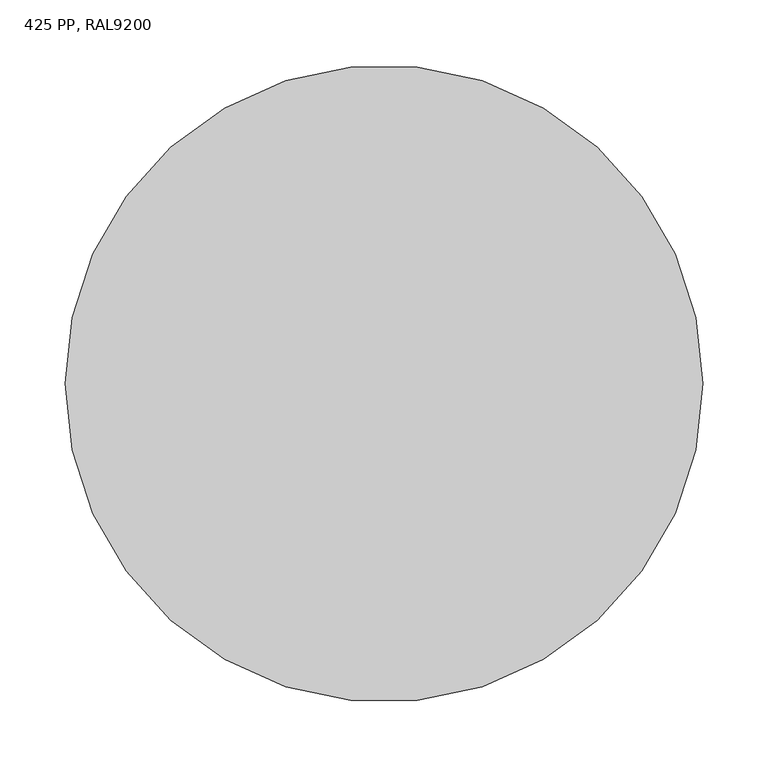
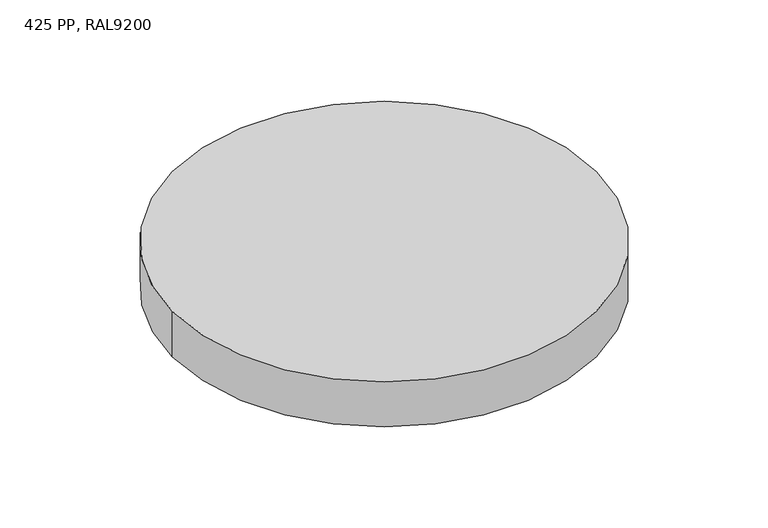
"""IFC4 building model written with IfcOpenShell, lengths in millimetres: pipe fitting geometry, Z_PIF_UN_Aquacell_NG_Round_Cover_Wavin_(nested) : 425 PP, RAL9200."""

import ifcopenshell
import ifcopenshell.guid

model = None  # the IFC model being written
_history = None  # IfcOwnerHistory: only IFC2X3 demands one
_inside = {}  # id of a spatial element -> (the spatial element, [elements in it])
_under = {}  # id of a project, library or spatial element -> (it, [spatial elements below it])
_declared = {}  # id of a project -> (the project, [libraries it declares])
_typed = {}  # id of a type object -> (the type object, [elements of that type])
_made_of = {}  # id of a material, layer set ... -> (it, [elements and type objects made of it])


def new_model(schema):
    """Start an empty IFC model of exactly this schema.

    Asked for "IFC4X3", IfcOpenShell would pick the latest addendum, in which some entities
    have other attributes; the version numbers below select the first issue.
    IFC2X3 requires an IfcOwnerHistory on every rooted entity: one is made here for all.
    """
    global model, _history
    if schema == "IFC4X3":
        model = ifcopenshell.file(schema_version=(4, 3, 0, 0))
    else:
        model = ifcopenshell.file(schema=schema)
    _inside.clear()
    _under.clear()
    _declared.clear()
    _typed.clear()
    _made_of.clear()
    _history = None
    if model.schema == "IFC2X3":
        org = make("IfcOrganization", Name="unknown")
        user = make(
            "IfcPersonAndOrganization",
            ThePerson=make("IfcPerson", FamilyName="unknown"),
            TheOrganization=org,
        )
        app = make(
            "IfcApplication",
            ApplicationDeveloper=org,
            Version="unknown",
            ApplicationFullName="unknown",
            ApplicationIdentifier="unknown",
        )
        _history = make(
            "IfcOwnerHistory",
            OwningUser=user,
            OwningApplication=app,
            ChangeAction="ADDED",
            CreationDate=0,
        )
    return model


def make(cls, **values):
    """One entity of the class cls with the attributes given. An attribute that is None is left unset."""
    return model.create_entity(
        cls, **{name: value for name, value in values.items() if value is not None}
    )


def rooted(cls, **values):
    """An entity with a GlobalId (a new one), such as an element, a storey or a relation."""
    return make(cls, GlobalId=ifcopenshell.guid.new(), OwnerHistory=_history, **values)


def si_unit(unit_type, name, prefix=None):
    """IfcSIUnit, for example si_unit("LENGTHUNIT", "METRE", prefix="MILLI")."""
    return make("IfcSIUnit", UnitType=unit_type, Prefix=prefix, Name=name)


def assignment(units):
    """IfcUnitAssignment: the units of a project."""
    return None if units is None else make("IfcUnitAssignment", Units=units)


def point(xyz):
    """IfcCartesianPoint."""
    return None if xyz is None else make("IfcCartesianPoint", Coordinates=xyz)


def direction(xyz):
    """IfcDirection."""
    return None if xyz is None else make("IfcDirection", DirectionRatios=xyz)


def frame(location, z_axis=None, x_axis=None):
    """IfcAxis2Placement3D, a coordinate frame: its origin and axes. An axis left out is left unset."""
    return make(
        "IfcAxis2Placement3D",
        Location=point(location),
        Axis=direction(z_axis),
        RefDirection=direction(x_axis),
    )


def frame_2d(location, x_axis=None):
    """IfcAxis2Placement2D, a coordinate frame in the plane: its origin and x axis."""
    return make(
        "IfcAxis2Placement2D", Location=point(location), RefDirection=direction(x_axis)
    )


def origin():
    """The frame at (0, 0, 0) with its axes left unset."""
    return frame((0.0, 0.0, 0.0))


def origin_2d():
    """The frame at (0, 0) in the plane with its x axis left unset."""
    return frame_2d((0.0, 0.0))


def place(relative_to, where):
    """IfcLocalPlacement: puts the frame where relative to a parent placement (None: the world)."""
    return make(
        "IfcLocalPlacement", PlacementRelTo=relative_to, RelativePlacement=where
    )


def context(
    kind, dimensions, precision=None, world=None, true_north=None, identifier=None
):
    """IfcGeometricRepresentationContext, for example the 3D "Model" context."""
    return make(
        "IfcGeometricRepresentationContext",
        ContextIdentifier=identifier,
        ContextType=kind,
        CoordinateSpaceDimension=dimensions,
        Precision=precision,
        WorldCoordinateSystem=world,
        TrueNorth=true_north,
    )


def project(units=None, contexts=None):
    """IfcProject with its units and contexts."""
    return rooted(
        "IfcProject",
        Name="project",
        RepresentationContexts=contexts,
        UnitsInContext=assignment(units),
    )


def spatial(cls, under=None, at=None, **own):
    """A site, building, storey or space (cls), placed at a placement, below another one or the project."""
    s = rooted(cls, ObjectPlacement=at, **own)
    if under is not None:
        _under.setdefault(under.id(), (under, []))[1].append(s)
    return s


def circle_curve(where, radius):
    """IfcCircle in the frame where."""
    return make("IfcCircle", Position=where, Radius=radius)


def trimmed(basis, trim1, trim2, sense, master):
    """IfcTrimmedCurve: the piece of a basis curve between two trims."""
    return make(
        "IfcTrimmedCurve",
        BasisCurve=basis,
        Trim1=trim1,
        Trim2=trim2,
        SenseAgreement=sense,
        MasterRepresentation=master,
    )


def segment(curve, same_sense, transition):
    """IfcCompositeCurveSegment."""
    return make(
        "IfcCompositeCurveSegment",
        Transition=transition,
        SameSense=same_sense,
        ParentCurve=curve,
    )


def composite_curve(segments, self_intersect=None):
    """IfcCompositeCurve: segments joined end to end."""
    return make("IfcCompositeCurve", Segments=segments, SelfIntersect=self_intersect)


def outline(outer, holes=None, kind="AREA"):
    """IfcArbitraryClosedProfileDef: a profile drawn as a closed curve; with holes, ...WithVoids."""
    if holes is None:
        return make("IfcArbitraryClosedProfileDef", ProfileType=kind, OuterCurve=outer)
    return make(
        "IfcArbitraryProfileDefWithVoids",
        ProfileType=kind,
        OuterCurve=outer,
        InnerCurves=holes,
    )


def extrude(swept, where, along, depth):
    """IfcExtrudedAreaSolid: the profile swept, set in the frame where, extruded along a direction by depth."""
    return make(
        "IfcExtrudedAreaSolid",
        SweptArea=swept,
        Position=where,
        ExtrudedDirection=direction(along),
        Depth=depth,
    )


def shape(context_of_items, identifier, shape_type, items):
    """IfcShapeRepresentation: the items that make up one representation, for example the "Body"."""
    return make(
        "IfcShapeRepresentation",
        ContextOfItems=context_of_items,
        RepresentationIdentifier=identifier,
        RepresentationType=shape_type,
        Items=items,
    )


def source(mapping_origin, context_of_items, identifier, shape_type, items):
    """IfcRepresentationMap: a shape defined once, which mapped items show again and again."""
    return make(
        "IfcRepresentationMap",
        MappingOrigin=mapping_origin,
        MappedRepresentation=shape(context_of_items, identifier, shape_type, items),
    )


def transform(
    local_origin,
    x_axis=None,
    y_axis=None,
    z_axis=None,
    scale=None,
    scale2=None,
    scale3=None,
    uniform=True,
):
    """IfcCartesianTransformationOperator3D, or its non-uniform kind. x_axis, y_axis, z_axis: its Axis1, 2, 3."""
    if uniform:
        return make(
            "IfcCartesianTransformationOperator3D",
            Axis1=direction(x_axis),
            Axis2=direction(y_axis),
            LocalOrigin=point(local_origin),
            Scale=scale,
            Axis3=direction(z_axis),
        )
    return make(
        "IfcCartesianTransformationOperator3DnonUniform",
        Axis1=direction(x_axis),
        Axis2=direction(y_axis),
        LocalOrigin=point(local_origin),
        Scale=scale,
        Axis3=direction(z_axis),
        Scale2=scale2,
        Scale3=scale3,
    )


def mapped(mapping_source, mapping_target):
    """IfcMappedItem: shows the shape of a source again, moved by a transform."""
    return make(
        "IfcMappedItem", MappingSource=mapping_source, MappingTarget=mapping_target
    )


def made_of(thing, what):
    """Note that an element or type object is made of a material, layer set ...; save() writes the relation."""
    if what is not None:
        _made_of.setdefault(what.id(), (what, []))[1].append(thing)
    return thing


def element(
    cls,
    number,
    at=None,
    inside=None,
    cuts=None,
    type_object=None,
    material=None,
    context=None,
    identifier="Body",
    shape_type=None,
    held_by="IfcProductDefinitionShape",
    body=None,
    shapes=None,
    **own,
):
    """One element of the class cls, such as IfcWall. Its Tag is "e" and its number.

    at: its placement. inside: the storey or other place that contains it. cuts: it is an
    opening in that element (IfcRelVoidsElement). A single representation is given by context,
    identifier, shape_type and body (its items); several are given by shapes. held_by: the class
    of the entity that holds the representations. save() writes the other relations.
    """
    e = rooted(cls, Tag="e%d" % number, ObjectPlacement=at, **own)
    if body is not None:
        shapes = [shape(context, identifier, shape_type, body)]
    if shapes is not None:
        e.Representation = make(held_by, Representations=shapes)
    if inside is not None:
        _inside.setdefault(inside.id(), (inside, []))[1].append(e)
    if cuts is not None:
        rooted(
            "IfcRelVoidsElement", RelatingBuildingElement=cuts, RelatedOpeningElement=e
        )
    if type_object is not None:
        _typed.setdefault(type_object.id(), (type_object, []))[1].append(e)
    return made_of(e, material)


def aggregate(whole, parts):
    """IfcRelAggregates: a whole, such as a stair, and the parts it consists of."""
    return rooted("IfcRelAggregates", RelatingObject=whole, RelatedObjects=parts)


def save(model, path):
    """Write the relations noted so far, then the file.

    IfcRelAggregates (storeys below a building ...), IfcRelContainedInSpatialStructure (elements
    in a storey), IfcRelDefinesByType, IfcRelAssociatesMaterial and IfcRelDeclares: one each for
    every whole, place, type object, material and project.
    """
    for whole, parts in _under.values():
        aggregate(whole, parts)
    for where, things in _inside.values():
        rooted(
            "IfcRelContainedInSpatialStructure",
            RelatedElements=things,
            RelatingStructure=where,
        )
    for kind, things in _typed.values():
        rooted("IfcRelDefinesByType", RelatedObjects=things, RelatingType=kind)
    for what, things in _made_of.values():
        rooted("IfcRelAssociatesMaterial", RelatedObjects=things, RelatingMaterial=what)
    for by, libraries in _declared.values():
        rooted("IfcRelDeclares", RelatingContext=by, RelatedDefinitions=libraries)
    model.write(path)


def pipe_fitting_425_pp_ral9200_b86bad7e(model_context):
    return source(origin(), model_context, "Body", "SweptSolid", [
        extrude(outline(composite_curve([segment(trimmed(circle_curve(origin_2d(), 244.0), [point((-244.0, 0.0))], [point((244.0, 0.0))], False, "CARTESIAN"), True, "CONTINUOUS"), segment(trimmed(circle_curve(origin_2d(), 244.0), [point((244.0, 0.0))], [point((-244.0, 0.0))], False, "CARTESIAN"), True, "CONTINUOUS")], self_intersect=False)), frame((0.0, 0.0, -55.0), z_axis=(0.0, 0.0, 1.0), x_axis=(1.0, 0.0, 0.0)), (0.0, 0.0, 1.0), 55.0),
    ])


if __name__ == "__main__":
    model = new_model("IFC4")
    model_context = context("Model", 3, world=origin())
    ifc_project = project(units=[si_unit("LENGTHUNIT", "METRE", prefix="MILLI")], contexts=[model_context])
    site = spatial("IfcSite", under=ifc_project)
    building = spatial("IfcBuilding", under=site)
    placement = place(None, origin())
    pipe_fitting_425_pp_ral9200_shape = pipe_fitting_425_pp_ral9200_b86bad7e(model_context)
    element("IfcPipeFitting", 1, ObjectType="Z_PIF_UN_Aquacell_NG_Round_Cover_Wavin_(nested) : 425 PP, RAL9200", at=placement, inside=building, context=model_context, shape_type="MappedRepresentation", body=[
        mapped(pipe_fitting_425_pp_ral9200_shape, transform((0.0, 0.0, 0.0), x_axis=(1.0, 0.0, 0.0), y_axis=(0.0, 1.0, 0.0), z_axis=(0.0, 0.0, 1.0))),
    ])
    save(model, "model.ifc")
